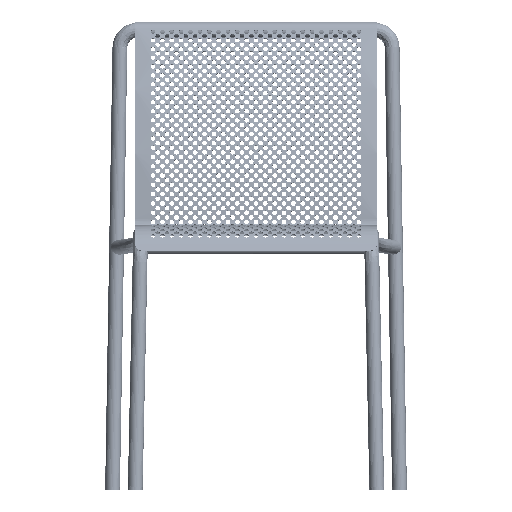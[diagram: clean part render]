
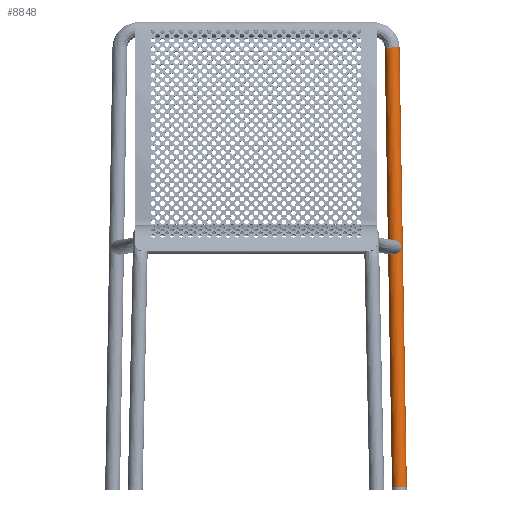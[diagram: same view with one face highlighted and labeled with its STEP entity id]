
A CAD part, front view. The second image highlights one B-rep face of the part: STEP entity #8848.
In plain terms, the highlighted cylindrical face has radius 12.7 mm (diameter 25.4 mm), a partial arc.
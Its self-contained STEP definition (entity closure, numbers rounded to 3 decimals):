
#8848=ADVANCED_FACE('',(#13686),#97886,.T.);
#13686=FACE_OUTER_BOUND('',#22693,.T.);
#22693=EDGE_LOOP('',(#50400,#50401,#50402,#50403));
#50400=ORIENTED_EDGE('',*,*,#65185,.F.);
#50401=ORIENTED_EDGE('',*,*,#65174,.T.);
#50402=ORIENTED_EDGE('',*,*,#65175,.T.);
#50403=ORIENTED_EDGE('',*,*,#65176,.T.);
#65174=EDGE_CURVE('',#93173,#93192,#83955,.T.);
#65175=EDGE_CURVE('',#93192,#93193,#69699,.T.);
#65176=EDGE_CURVE('',#93193,#93172,#83956,.T.);
#65185=EDGE_CURVE('',#93173,#93172,#69706,.T.);
#69699=TRIMMED_CURVE($,#73949,(#426998),(#426999),.T.,.CARTESIAN.);
#69706=TRIMMED_CURVE($,#73956,(#427025),(#427026),.T.,.CARTESIAN.);
#73949=CIRCLE('',#104427,12.7);
#73956=CIRCLE('',#104434,12.7);
#83955=B_SPLINE_CURVE_WITH_KNOTS('',1,(#426995,#426996),.UNSPECIFIED.,.F.,
 .F.,(2,2),(0.,751.603),.UNSPECIFIED.);
#83956=B_SPLINE_CURVE_WITH_KNOTS('',1,(#427000,#427001),.UNSPECIFIED.,.F.,
 .F.,(2,2),(0.,751.603),.UNSPECIFIED.);
#93172=VERTEX_POINT('',#426806);
#93173=VERTEX_POINT('',#426807);
#93192=VERTEX_POINT('',#426826);
#93193=VERTEX_POINT('',#426827);
#97886=CYLINDRICAL_SURFACE('',#104389,12.7);
#104389=AXIS2_PLACEMENT_3D('',#426459,#114793,$);
#104427=AXIS2_PLACEMENT_3D($,#426997,#114858,#114859);
#104434=AXIS2_PLACEMENT_3D($,#427024,#114872,#114873);
#114793=DIRECTION('',(0.017,0.,-1.));
#114858=DIRECTION('',(-0.017,0.,1.));
#114859=DIRECTION('',(-1.,0.,-0.017));
#114872=DIRECTION('',(-0.017,0.,1.));
#114873=DIRECTION('',(-1.,0.,-0.017));
#426459=CARTESIAN_POINT('',(239.05,1259.351,377.107));
#426806=CARTESIAN_POINT('',(245.498,1259.351,753.068));
#426807=CARTESIAN_POINT('',(220.102,1259.351,752.645));
#426826=CARTESIAN_POINT('',(232.602,1259.351,1.146));
#426827=CARTESIAN_POINT('',(257.998,1259.351,1.569));
#426995=CARTESIAN_POINT('',(220.102,1259.351,752.645));
#426996=CARTESIAN_POINT('',(232.602,1259.351,1.146));
#426997=CARTESIAN_POINT('',(245.3,1259.351,1.358));
#426998=CARTESIAN_POINT('',(232.602,1259.351,1.146));
#426999=CARTESIAN_POINT('',(257.998,1259.351,1.569));
#427000=CARTESIAN_POINT('',(257.998,1259.351,1.569));
#427001=CARTESIAN_POINT('',(245.498,1259.351,753.068));
#427024=CARTESIAN_POINT('',(232.8,1259.351,752.857));
#427025=CARTESIAN_POINT('',(220.102,1259.351,752.645));
#427026=CARTESIAN_POINT('',(245.498,1259.351,753.068));
